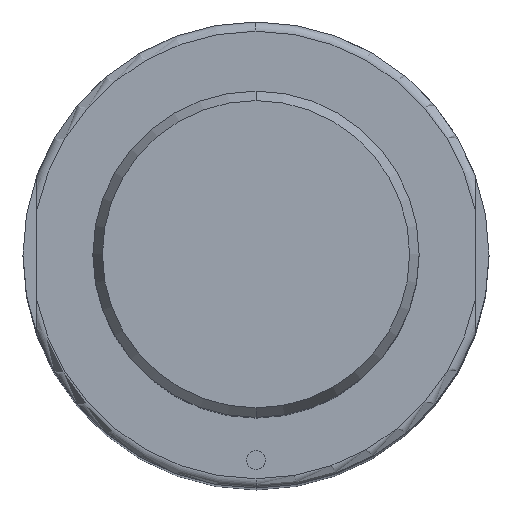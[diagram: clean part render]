
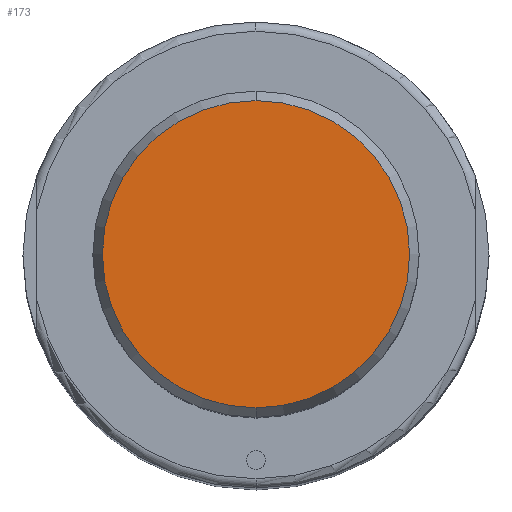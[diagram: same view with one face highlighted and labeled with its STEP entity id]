
A CAD part, top view. The second image highlights one B-rep face of the part: STEP entity #173.
In plain terms, the highlighted planar face has unit normal (0, 0, 1).
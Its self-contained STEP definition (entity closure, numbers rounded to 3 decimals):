
#124=PLANE('',#990);
#173=ADVANCED_FACE('',(#244),#124,.T.);
#244=FACE_OUTER_BOUND('',#297,.T.);
#297=EDGE_LOOP('',(#457,#458));
#364=CIRCLE('',#975,16.481);
#365=CIRCLE('',#977,16.481);
#457=ORIENTED_EDGE('',*,*,#758,.F.);
#458=ORIENTED_EDGE('',*,*,#759,.F.);
#677=VERTEX_POINT('',#1413);
#680=VERTEX_POINT('',#1418);
#758=EDGE_CURVE('',#680,#677,#364,.T.);
#759=EDGE_CURVE('',#677,#680,#365,.T.);
#975=AXIS2_PLACEMENT_3D('',#1419,#1109,#1110);
#977=AXIS2_PLACEMENT_3D('',#1421,#1113,#1114);
#990=AXIS2_PLACEMENT_3D('',#1444,#1143,#1144);
#1109=DIRECTION('',(0.,0.,-1.));
#1110=DIRECTION('',(-1.,0.,0.));
#1113=DIRECTION('',(0.,0.,-1.));
#1114=DIRECTION('',(1.,0.,0.));
#1143=DIRECTION('',(0.,0.,1.));
#1144=DIRECTION('',(0.,-1.,0.));
#1413=CARTESIAN_POINT('',(0.,-16.481,170.));
#1418=CARTESIAN_POINT('',(0.,16.481,170.));
#1419=CARTESIAN_POINT('',(0.,0.,170.));
#1421=CARTESIAN_POINT('',(0.,0.,170.));
#1444=CARTESIAN_POINT('',(0.,0.,170.));
